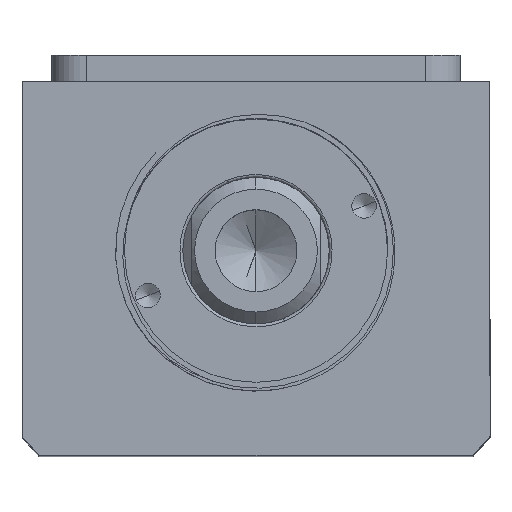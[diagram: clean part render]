
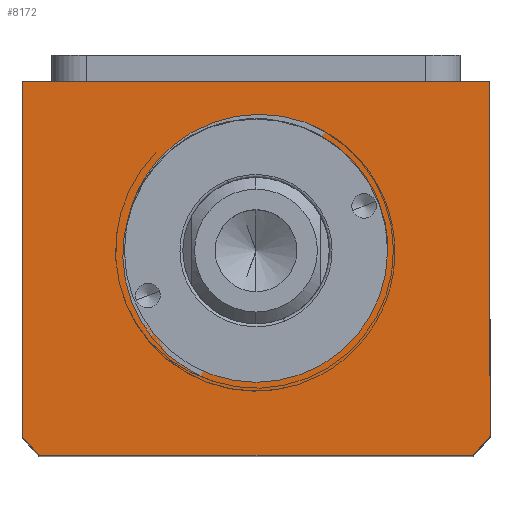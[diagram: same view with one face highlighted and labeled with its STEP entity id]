
A CAD part, top view. The second image highlights one B-rep face of the part: STEP entity #8172.
In plain terms, the highlighted planar face has unit normal (0, 0, 1).
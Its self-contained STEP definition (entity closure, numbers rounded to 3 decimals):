
#50 = CARTESIAN_POINT ( 'NONE',  ( 40., -11.507, 140. ) ) ;
#142 = ORIENTED_EDGE ( 'NONE', *, *, #4581, .F. ) ;
#269 = AXIS2_PLACEMENT_3D ( 'NONE', #8418, #3543, #9249 ) ;
#349 = CARTESIAN_POINT ( 'NONE',  ( 22.5, -40.507, 140. ) ) ;
#772 = DIRECTION ( 'NONE',  ( 1., 0., 0. ) ) ;
#1249 = EDGE_CURVE ( 'NONE', #2308, #7186, #2432, .T. ) ;
#1456 = LINE ( 'NONE', #2268, #9861 ) ;
#1807 = CIRCLE ( 'NONE', #3191, 51. ) ;
#1819 = CARTESIAN_POINT ( 'NONE',  ( 40., -72.145, 140. ) ) ;
#1849 = DIRECTION ( 'NONE',  ( 1., 0., 0. ) ) ;
#1865 = VERTEX_POINT ( 'NONE', #5191 ) ;
#1994 = VECTOR ( 'NONE', #8853, 1000. ) ;
#2150 = DIRECTION ( 'NONE',  ( 0., -1., 0. ) ) ;
#2255 = DIRECTION ( 'NONE',  ( 0., 0., 1. ) ) ;
#2268 = CARTESIAN_POINT ( 'NONE',  ( -40., -75.507, 140. ) ) ;
#2283 = CARTESIAN_POINT ( 'NONE',  ( 0., -40.507, 140. ) ) ;
#2299 = AXIS2_PLACEMENT_3D ( 'NONE', #5447, #9575, #4676 ) ;
#2308 = VERTEX_POINT ( 'NONE', #5725 ) ;
#2377 = CIRCLE ( 'NONE', #269, 22.5 ) ;
#2432 = CIRCLE ( 'NONE', #3590, 51. ) ;
#2655 = EDGE_CURVE ( 'NONE', #7186, #5352, #8244, .T. ) ;
#2861 = ORIENTED_EDGE ( 'NONE', *, *, #3771, .T. ) ;
#3191 = AXIS2_PLACEMENT_3D ( 'NONE', #8638, #3752, #9463 ) ;
#3346 = CIRCLE ( 'NONE', #3387, 22.5 ) ;
#3357 = ORIENTED_EDGE ( 'NONE', *, *, #4933, .T. ) ;
#3367 = VERTEX_POINT ( 'NONE', #8095 ) ;
#3387 = AXIS2_PLACEMENT_3D ( 'NONE', #10551, #5653, #772 ) ;
#3543 = DIRECTION ( 'NONE',  ( 0., 0., 1. ) ) ;
#3590 = AXIS2_PLACEMENT_3D ( 'NONE', #2283, #2255, #1849 ) ;
#3687 = ORIENTED_EDGE ( 'NONE', *, *, #8766, .T. ) ;
#3752 = DIRECTION ( 'NONE',  ( 0., 0., 1. ) ) ;
#3771 = EDGE_CURVE ( 'NONE', #5352, #3367, #7591, .T. ) ;
#3865 = PLANE ( 'NONE',  #2299 ) ;
#3942 = DIRECTION ( 'NONE',  ( -1., 0., 0. ) ) ;
#4097 = FACE_BOUND ( 'NONE', #10241, .T. ) ;
#4106 = VECTOR ( 'NONE', #2150, 1000. ) ;
#4462 = ORIENTED_EDGE ( 'NONE', *, *, #2655, .T. ) ;
#4581 = EDGE_CURVE ( 'NONE', #9472, #1865, #2377, .T. ) ;
#4676 = DIRECTION ( 'NONE',  ( 1., 0., 0. ) ) ;
#4736 = DIRECTION ( 'NONE',  ( 1., 0., 0. ) ) ;
#4807 = EDGE_CURVE ( 'NONE', #3367, #9320, #6533, .T. ) ;
#4933 = EDGE_CURVE ( 'NONE', #9915, #2308, #1456, .T. ) ;
#5191 = CARTESIAN_POINT ( 'NONE',  ( -22.5, -40.507, 140. ) ) ;
#5305 = CARTESIAN_POINT ( 'NONE',  ( -37.094, -75.507, 140. ) ) ;
#5352 = VERTEX_POINT ( 'NONE', #50 ) ;
#5447 = CARTESIAN_POINT ( 'NONE',  ( 0., 0., 140. ) ) ;
#5606 = CARTESIAN_POINT ( 'NONE',  ( 40., -11.507, 140. ) ) ;
#5653 = DIRECTION ( 'NONE',  ( 0., 0., 1. ) ) ;
#5725 = CARTESIAN_POINT ( 'NONE',  ( 37.094, -75.507, 140. ) ) ;
#5932 = EDGE_LOOP ( 'NONE', ( #9630, #3687, #3357, #7837, #4462, #2861 ) ) ;
#6416 = CARTESIAN_POINT ( 'NONE',  ( -40., -11.507, 140. ) ) ;
#6520 = FACE_OUTER_BOUND ( 'NONE', #5932, .T. ) ;
#6533 = LINE ( 'NONE', #7026, #4106 ) ;
#7026 = CARTESIAN_POINT ( 'NONE',  ( -40., -11.507, 140. ) ) ;
#7186 = VERTEX_POINT ( 'NONE', #1819 ) ;
#7591 = LINE ( 'NONE', #6416, #10037 ) ;
#7837 = ORIENTED_EDGE ( 'NONE', *, *, #1249, .T. ) ;
#8095 = CARTESIAN_POINT ( 'NONE',  ( -40., -11.507, 140. ) ) ;
#8172 = ADVANCED_FACE ( 'NONE', ( #4097, #6520 ), #3865, .T. ) ;
#8244 = LINE ( 'NONE', #5606, #1994 ) ;
#8307 = EDGE_CURVE ( 'NONE', #1865, #9472, #3346, .T. ) ;
#8418 = CARTESIAN_POINT ( 'NONE',  ( 0., -40.507, 140. ) ) ;
#8638 = CARTESIAN_POINT ( 'NONE',  ( 0., -40.507, 140. ) ) ;
#8766 = EDGE_CURVE ( 'NONE', #9320, #9915, #1807, .T. ) ;
#8853 = DIRECTION ( 'NONE',  ( 0., 1., 0. ) ) ;
#9084 = ORIENTED_EDGE ( 'NONE', *, *, #8307, .F. ) ;
#9249 = DIRECTION ( 'NONE',  ( 1., 0., 0. ) ) ;
#9320 = VERTEX_POINT ( 'NONE', #9929 ) ;
#9463 = DIRECTION ( 'NONE',  ( 1., 0., 0. ) ) ;
#9472 = VERTEX_POINT ( 'NONE', #349 ) ;
#9575 = DIRECTION ( 'NONE',  ( 0., 0., 1. ) ) ;
#9630 = ORIENTED_EDGE ( 'NONE', *, *, #4807, .T. ) ;
#9861 = VECTOR ( 'NONE', #4736, 1000. ) ;
#9915 = VERTEX_POINT ( 'NONE', #5305 ) ;
#9929 = CARTESIAN_POINT ( 'NONE',  ( -40., -72.145, 140. ) ) ;
#10037 = VECTOR ( 'NONE', #3942, 1000. ) ;
#10241 = EDGE_LOOP ( 'NONE', ( #142, #9084 ) ) ;
#10551 = CARTESIAN_POINT ( 'NONE',  ( 0., -40.507, 140. ) ) ;
